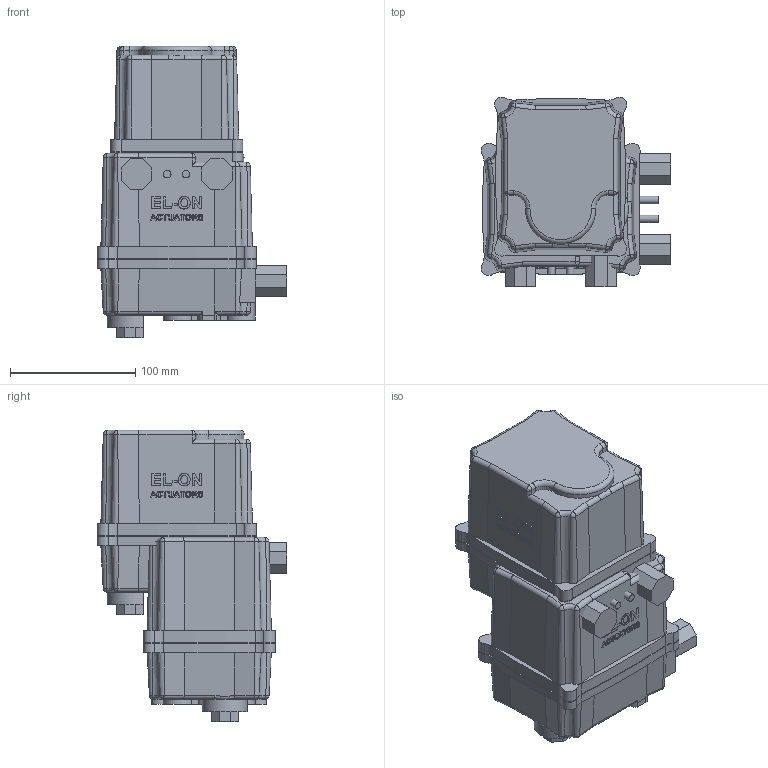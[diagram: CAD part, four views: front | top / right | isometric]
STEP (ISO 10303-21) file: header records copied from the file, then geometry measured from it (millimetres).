
FILE_DESCRIPTION( ( 'Unknown' ), '1' );
FILE_NAME( 'J:/Muud/ROOTSI BPS 3D vidinad/Kuulkraanid/Roostevaba kuulkraanid/Ball valve BPS 2411/Ball valve with electric actuator BPS/STEP formaat/BPS 2411015E ball valve DN15.stp', 'Unknown', ( 'Unknown' ), ( 'Unknown' ), 'PSStep 10.1', 'Unknown', ' ' );
FILE_SCHEMA( ( 'AUTOMOTIVE_DESIGN { 1 0 10303 214 1 1 1 1 }' ) );
Length unit declared in the file: millimetre
Products named in the file (4): Assem1; BPS 2411015 ball valve DN15; BPS 8005058 electric actuator DN40-100
Bounding box: 151.5 x 151.5 x 232.4 mm (x, y, z)
Volume: 3032958.9 mm3; surface area: 261241 mm2
Topology: 6 solids, 6 shells, 1130 faces, 2950 edges, 1908 vertices
Faces by surface type: plane 450, cylinder 260, extrusion 190, bspline 122, cone 82, torus 26
Full cylindrical faces by diameter (mm): 4.134 x16, 4.917 x8, 6 x4, 6.647 x8, 15 x2, 18.631 x4, 21 x2, 31 x2, 34 x2
Entity records: 29569 total; most frequent: CARTESIAN_POINT 12528, ORIENTED_EDGE 2718, DIRECTION 2110, EDGE_CURVE 1359, VERTEX_POINT 921, VECTOR 708, AXIS2_PLACEMENT_3D 701, EDGE_LOOP 676
